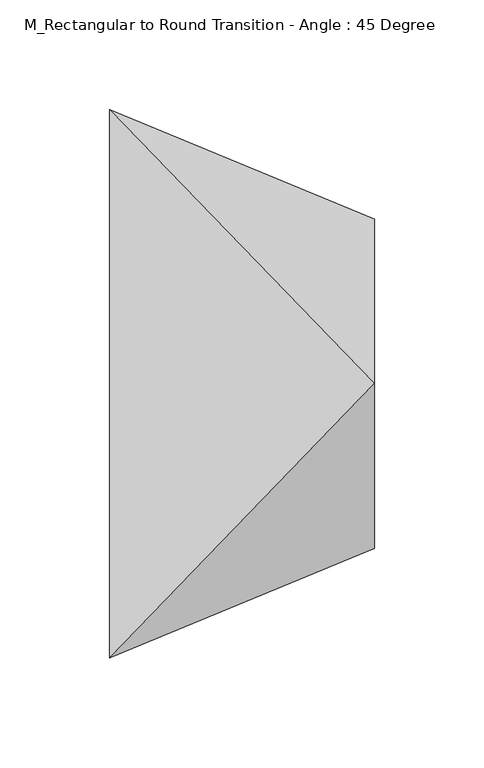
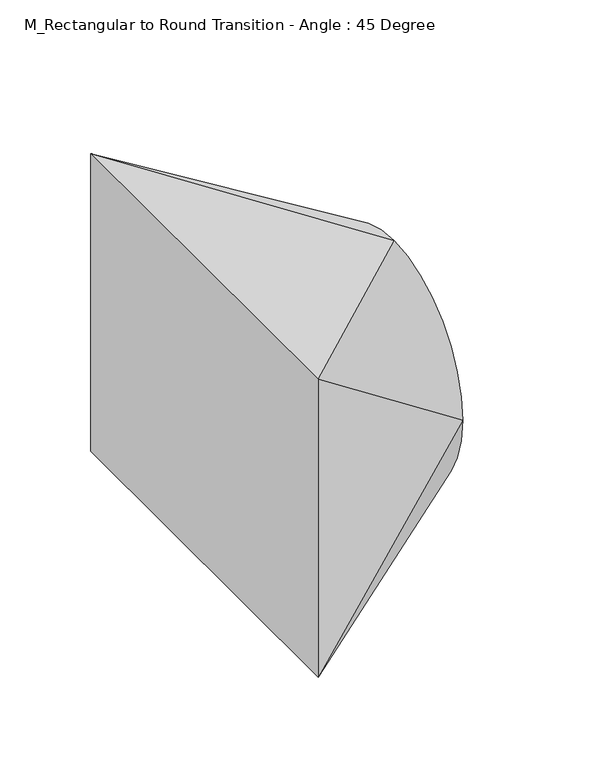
"""IFC4 building model written with IfcOpenShell, lengths in millimetres: duct fitting geometry, M_Rectangular to Round Transition - Angle : 45 Degree."""

from ifc_helpers import new_model, si_unit, frame, origin, place, context, project, spatial, circle_curve, source, transform, mapped, element, save
from ifc_brep_helpers import plane_surface, spline_surface, advanced_brep


def m_rectangular_to_round_transition_angle_45_degree_66d46ab7(model_context):
    return source(origin(), model_context, "Body", "AdvancedBrep", [
        advanced_brep(
        [(0.0, -125.0, -100.0), (0.0, -125.0, 100.0), (0.0, 125.0, 100.0), (0.0, 125.0, -100.0), (120.7106781, -75.0, 0.05), (120.7106781, 0.0, -74.95), (120.7106781, 75.0, 0.05), (120.7106781, 0.0, 75.05)],
        [
            (0, 1),
            (1, 2),
            (2, 3),
            (3, 0),
            (4, 5, circle_curve(frame((120.7106781, 0.0, 0.05), z_axis=(1.0, 0.0, 0.0), x_axis=(0.0, -1.0, 0.0)), 75.0)),
            (5, 6, circle_curve(frame((120.7106781, 0.0, 0.05), z_axis=(1.0, 0.0, 0.0), x_axis=(0.0, -1.0, 0.0)), 75.0)),
            (6, 7, circle_curve(frame((120.7106781, 0.0, 0.05), z_axis=(1.0, 0.0, 0.0), x_axis=(0.0, -1.0, 0.0)), 75.0)),
            (7, 4, circle_curve(frame((120.7106781, 0.0, 0.05), z_axis=(1.0, 0.0, 0.0), x_axis=(0.0, -1.0, 0.0)), 75.0)),
            (0, 4),
            (4, 1),
            (7, 1),
            (7, 2),
            (6, 2),
            (6, 3),
            (5, 3),
            (5, 0),
        ],
        [
            plane_surface(frame((0.0, 0.0, 0.0), z_axis=(-1.0, 0.0, 0.0), x_axis=(0.0, 1.0, 0.0))),
            plane_surface(frame((120.7106781, 0.0, 0.05), z_axis=(1.0, 0.0, 0.0), x_axis=(0.0, 1.0, 0.0))),
            plane_surface(frame((120.7106781, -75.0, 0.05), z_axis=(0.3826834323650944, -0.9238795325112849, 0.0), x_axis=(0.0, 0.0, 1.0))),
            spline_surface(2, 1, [[(120.7106781, -75.0, 0.05), (0.0, -125.0, 100.0)], [(120.7106781, -75.0, 75.05), (0.0, -125.0, 100.0)], [(120.7106781, 0.0, 75.05), (0.0, -125.0, 100.0)]], [3, 3], [2, 2], [0.0, 1.0], [0.0, 1.0], weights=[[1.0, 1.0], [0.7071067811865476, 0.7071067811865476], [1.0, 1.0]]),
            plane_surface(frame((120.7106781, 0.0, 75.05), z_axis=(0.2024140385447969, 0.0, 0.9793000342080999), x_axis=(0.0, 1.0, 0.0))),
            spline_surface(2, 1, [[(120.7106781, 0.0, 75.05), (0.0, 125.0, 100.0)], [(120.7106781, 75.0, 75.05), (0.0, 125.0, 100.0)], [(120.7106781, 75.0, 0.05), (0.0, 125.0, 100.0)]], [3, 3], [2, 2], [0.0, 1.0], [0.0, 1.0], weights=[[1.0, 1.0], [0.7071067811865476, 0.7071067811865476], [1.0, 1.0]]),
            plane_surface(frame((120.7106781, 75.0, 0.05), z_axis=(0.38268343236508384, 0.9238795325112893, 0.0), x_axis=(0.0, 0.0, -1.0))),
            spline_surface(2, 1, [[(120.7106781, 75.0, 0.05), (0.0, 125.0, -100.0)], [(120.7106781, 75.0, -74.95), (0.0, 125.0, -100.0)], [(120.7106781, 0.0, -74.95), (0.0, 125.0, -100.0)]], [3, 3], [2, 2], [0.0, 1.0], [0.0, 1.0], weights=[[1.0, 1.0], [0.7071067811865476, 0.7071067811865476], [1.0, 1.0]]),
            plane_surface(frame((120.7106781, 0.0, -74.95), z_axis=(0.20319188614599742, 0.0, -0.9791389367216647), x_axis=(0.0, -1.0, 0.0))),
            spline_surface(2, 1, [[(120.7106781, 0.0, -74.95), (0.0, -125.0, -100.0)], [(120.7106781, -75.0, -74.95), (0.0, -125.0, -100.0)], [(120.7106781, -75.0, 0.05), (0.0, -125.0, -100.0)]], [3, 3], [2, 2], [0.0, 1.0], [0.0, 1.0], weights=[[1.0, 1.0], [0.7071067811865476, 0.7071067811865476], [1.0, 1.0]]),
        ],
        [
            (0, [[1, 2, 3, 4]]),
            (1, [[5, 6, 7, 8]]),
            (2, [[-1, 9, 10]]),
            (3, [[-8, 11, -10]]),
            (4, [[-2, -11, 12]]),
            (5, [[-7, 13, -12]]),
            (6, [[-3, -13, 14]]),
            (7, [[-6, 15, -14]]),
            (8, [[-4, -15, 16]]),
            (9, [[-5, -9, -16]]),
        ],
    ),
        advanced_brep(
        [(0.0, -125.0, -100.0), (0.0, -125.0, 100.0), (0.0, 125.0, 100.0), (0.0, 125.0, -100.0), (120.7106781, -75.0, 0.05), (120.7106781, 0.0, -74.95), (120.7106781, 75.0, 0.05), (120.7106781, 0.0, 75.05)],
        [
            (0, 1),
            (1, 2),
            (2, 3),
            (3, 0),
            (4, 5, circle_curve(frame((120.7106781, 0.0, 0.05), z_axis=(1.0, 0.0, 0.0), x_axis=(0.0, -1.0, 0.0)), 75.0)),
            (5, 6, circle_curve(frame((120.7106781, 0.0, 0.05), z_axis=(1.0, 0.0, 0.0), x_axis=(0.0, -1.0, 0.0)), 75.0)),
            (6, 7, circle_curve(frame((120.7106781, 0.0, 0.05), z_axis=(1.0, 0.0, 0.0), x_axis=(0.0, -1.0, 0.0)), 75.0)),
            (7, 4, circle_curve(frame((120.7106781, 0.0, 0.05), z_axis=(1.0, 0.0, 0.0), x_axis=(0.0, -1.0, 0.0)), 75.0)),
            (0, 4),
            (4, 1),
            (7, 1),
            (7, 2),
            (6, 2),
            (6, 3),
            (5, 3),
            (5, 0),
        ],
        [
            plane_surface(frame((0.0, 0.0, 0.0), z_axis=(-1.0, 0.0, 0.0), x_axis=(0.0, 1.0, 0.0))),
            plane_surface(frame((120.7106781, 0.0, 0.05), z_axis=(1.0, 0.0, 0.0), x_axis=(0.0, 1.0, 0.0))),
            plane_surface(frame((120.7106781, -75.0, 0.05), z_axis=(0.3826834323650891, -0.9238795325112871, 0.0), x_axis=(0.0, 0.0, 1.0))),
            spline_surface(2, 1, [[(120.7106781, -75.0, 0.05), (0.0, -125.0, 100.0)], [(120.7106781, -75.0, 75.05), (0.0, -125.0, 100.0)], [(120.7106781, 0.0, 75.05), (0.0, -125.0, 100.0)]], [3, 3], [2, 2], [0.0, 1.0], [0.0, 1.0], weights=[[1.0, 1.0], [0.7071067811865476, 0.7071067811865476], [1.0, 1.0]]),
            plane_surface(frame((120.7106781, 0.0, 75.05), z_axis=(0.20241403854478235, 0.0, 0.9793000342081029), x_axis=(0.0, 1.0, 0.0))),
            spline_surface(2, 1, [[(120.7106781, 0.0, 75.05), (0.0, 125.0, 100.0)], [(120.7106781, 75.0, 75.05), (0.0, 125.0, 100.0)], [(120.7106781, 75.0, 0.05), (0.0, 125.0, 100.0)]], [3, 3], [2, 2], [0.0, 1.0], [0.0, 1.0], weights=[[1.0, 1.0], [0.7071067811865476, 0.7071067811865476], [1.0, 1.0]]),
            plane_surface(frame((120.7106781, 75.0, 0.05), z_axis=(0.3826834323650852, 0.9238795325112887, 0.0), x_axis=(0.0, 0.0, -1.0))),
            spline_surface(2, 1, [[(120.7106781, 75.0, 0.05), (0.0, 125.0, -100.0)], [(120.7106781, 75.0, -74.95), (0.0, 125.0, -100.0)], [(120.7106781, 0.0, -74.95), (0.0, 125.0, -100.0)]], [3, 3], [2, 2], [0.0, 1.0], [0.0, 1.0], weights=[[1.0, 1.0], [0.7071067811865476, 0.7071067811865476], [1.0, 1.0]]),
            plane_surface(frame((120.7106781, 0.0, -74.95), z_axis=(0.20319188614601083, 0.0, -0.9791389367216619), x_axis=(0.0, -1.0, 0.0))),
            spline_surface(2, 1, [[(120.7106781, 0.0, -74.95), (0.0, -125.0, -100.0)], [(120.7106781, -75.0, -74.95), (0.0, -125.0, -100.0)], [(120.7106781, -75.0, 0.05), (0.0, -125.0, -100.0)]], [3, 3], [2, 2], [0.0, 1.0], [0.0, 1.0], weights=[[1.0, 1.0], [0.7071067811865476, 0.7071067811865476], [1.0, 1.0]]),
        ],
        [
            (0, [[1, 2, 3, 4]]),
            (1, [[5, 6, 7, 8]]),
            (2, [[-1, 9, 10]]),
            (3, [[-8, 11, -10]]),
            (4, [[-2, -11, 12]]),
            (5, [[-7, 13, -12]]),
            (6, [[-3, -13, 14]]),
            (7, [[-6, 15, -14]]),
            (8, [[-4, -15, 16]]),
            (9, [[-5, -9, -16]]),
        ],
    ),
        advanced_brep(
        [(120.7106781, 0.0, 75.05), (120.7106781, -75.0, 0.05), (120.7106781, 0.0, -74.95), (120.7106781, 75.0, 0.05), (0.0, -125.0, 100.0), (0.0, 125.0, 100.0), (0.0, 125.0, -100.0), (0.0, -125.0, -100.0)],
        [
            (0, 1, circle_curve(frame((120.7106781, 0.0, 0.05), z_axis=(1.0, 0.0, 0.0), x_axis=(0.0, 1.0, 0.0)), 75.0)),
            (1, 2, circle_curve(frame((120.7106781, 0.0, 0.05), z_axis=(1.0, 0.0, 0.0), x_axis=(0.0, 1.0, 0.0)), 75.0)),
            (2, 3, circle_curve(frame((120.7106781, 0.0, 0.05), z_axis=(1.0, 0.0, 0.0), x_axis=(0.0, 1.0, 0.0)), 75.0)),
            (3, 0, circle_curve(frame((120.7106781, 0.0, 0.05), z_axis=(1.0, 0.0, 0.0), x_axis=(0.0, 1.0, 0.0)), 75.0)),
            (4, 5),
            (5, 6),
            (6, 7),
            (7, 4),
            (0, 4),
            (4, 1),
            (7, 1),
            (7, 2),
            (6, 2),
            (6, 3),
            (5, 3),
            (5, 0),
        ],
        [
            plane_surface(frame((120.7106781, 0.0, 0.05), z_axis=(1.0, 0.0, 0.0), x_axis=(0.0, 0.0, -1.0))),
            plane_surface(frame((0.0, 0.0, 0.0), z_axis=(-1.0, 0.0, 0.0), x_axis=(0.0, 0.0, -1.0))),
            spline_surface(2, 1, [[(0.0, -125.0, 100.0), (120.7106781, 0.0, 75.05)], [(0.0, -125.0, 100.0), (120.7106781, -75.0, 75.05)], [(0.0, -125.0, 100.0), (120.7106781, -75.0, 0.05)]], [3, 3], [2, 2], [0.0, 1.0], [0.0, 1.0], weights=[[1.0, 1.0], [0.7071067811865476, 0.7071067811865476], [1.0, 1.0]]),
            plane_surface(frame((0.0, -125.0, 0.0), z_axis=(0.3826834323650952, -0.9238795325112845, 0.0), x_axis=(0.0, 0.0, -1.0))),
            spline_surface(2, 1, [[(0.0, -125.0, -100.0), (120.7106781, -75.0, 0.05)], [(0.0, -125.0, -100.0), (120.7106781, -75.0, -74.95)], [(0.0, -125.0, -100.0), (120.7106781, 0.0, -74.95)]], [3, 3], [2, 2], [0.0, 1.0], [0.0, 1.0], weights=[[1.0, 1.0], [0.7071067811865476, 0.7071067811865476], [1.0, 1.0]]),
            plane_surface(frame((0.0, 0.0, -100.0), z_axis=(0.20319188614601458, 0.0, -0.9791389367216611), x_axis=(0.0, 1.0, 0.0))),
            spline_surface(2, 1, [[(0.0, 125.0, -100.0), (120.7106781, 0.0, -74.95)], [(0.0, 125.0, -100.0), (120.7106781, 75.0, -74.95)], [(0.0, 125.0, -100.0), (120.7106781, 75.0, 0.05)]], [3, 3], [2, 2], [0.0, 1.0], [0.0, 1.0], weights=[[1.0, 1.0], [0.7071067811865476, 0.7071067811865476], [1.0, 1.0]]),
            plane_surface(frame((0.0, 125.0, 0.0), z_axis=(0.3826834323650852, 0.9238795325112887, 0.0), x_axis=(0.0, 0.0, 1.0))),
            spline_surface(2, 1, [[(0.0, 125.0, 100.0), (120.7106781, 75.0, 0.05)], [(0.0, 125.0, 100.0), (120.7106781, 75.0, 75.05)], [(0.0, 125.0, 100.0), (120.7106781, 0.0, 75.05)]], [3, 3], [2, 2], [0.0, 1.0], [0.0, 1.0], weights=[[1.0, 1.0], [0.7071067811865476, 0.7071067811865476], [1.0, 1.0]]),
            plane_surface(frame((0.0, 0.0, 100.0), z_axis=(0.20241403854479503, 0.0, 0.9793000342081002), x_axis=(0.0, -1.0, 0.0))),
        ],
        [
            (0, [[1, 2, 3, 4]]),
            (1, [[5, 6, 7, 8]]),
            (2, [[-1, 9, 10]]),
            (3, [[-8, 11, -10]]),
            (4, [[-2, -11, 12]]),
            (5, [[-7, 13, -12]]),
            (6, [[-3, -13, 14]]),
            (7, [[-6, 15, -14]]),
            (8, [[-4, -15, 16]]),
            (9, [[-5, -9, -16]]),
        ],
    ),
    ])


if __name__ == "__main__":
    model = new_model("IFC4")
    model_context = context("Model", 3, world=origin())
    ifc_project = project(units=[si_unit("LENGTHUNIT", "METRE", prefix="MILLI")], contexts=[model_context])
    site = spatial("IfcSite", under=ifc_project)
    building = spatial("IfcBuilding", under=site)
    placement = place(None, origin())
    m_rectangular_to_round_transition_angle_45_degree_shape = m_rectangular_to_round_transition_angle_45_degree_66d46ab7(model_context)
    element("IfcDuctFitting", 1, ObjectType="M_Rectangular to Round Transition - Angle : 45 Degree", at=placement, inside=building, context=model_context, shape_type="MappedRepresentation", body=[
        mapped(m_rectangular_to_round_transition_angle_45_degree_shape, transform((0.0, 0.0, 0.0), x_axis=(1.0, 0.0, 0.0), y_axis=(0.0, 1.0, 0.0), z_axis=(0.0, 0.0, 1.0))),
    ])
    save(model, "model.ifc")
